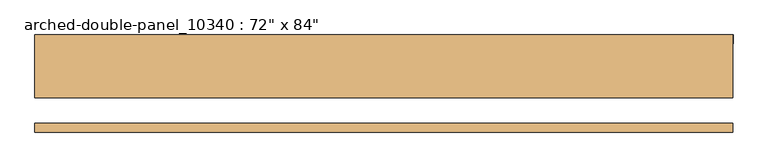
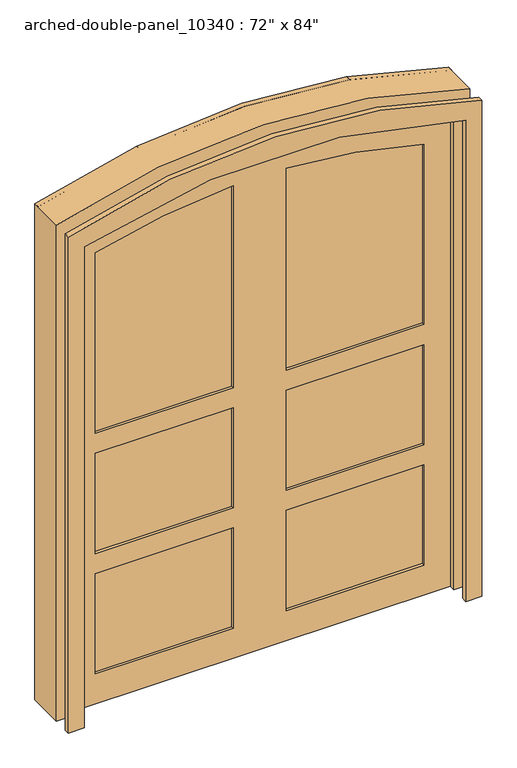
"""IFC4 building model written with IfcOpenShell, lengths in millimetres: door geometry."""

from ifc_helpers import new_model, si_unit, point, frame, frame_2d, origin, place, context, project, spatial, polyline, circle_curve, trimmed, segment, composite_curve, outline, extrude, source, transform, mapped, element, save


def door_2f4aef03(model_context):
    return source(origin(), model_context, "Body", "SweptSolid", [
        extrude(outline(composite_curve([segment(polyline([(0.0, -990.8443726), (0.0, -914.6443726), (2438.4, -914.6443726)]), True, "CONTINUOUS"), segment(trimmed(circle_curve(frame_2d((-425.8020119, -0.2443726)), 3006.6227773), [point((2438.4, -914.6443726))], [point((2438.4, 914.1556274))], True, "CARTESIAN"), True, "CONTINUOUS"), segment(polyline([(2438.4, 914.1556274), (0.0, 914.1556274), (0.0, 991.4590112), (2512.7633325, 991.4590112)]), True, "CONTINUOUS"), segment(trimmed(circle_curve(frame_2d((-421.3554236, -2.1296795)), 3097.784912), [point((2512.7633325, 991.4590112))], [point((2514.4093178, -990.8443726))], False, "CARTESIAN"), True, "CONTINUOUS"), segment(polyline([(2514.4093178, -990.8443726), (0.0, -990.8443726)]), True, "CONTINUOUS")], self_intersect=False)), frame((0.0, -101.6, 0.0), z_axis=(0.0, 1.0, 0.0), x_axis=(0.0, 0.0, 1.0)), (0.0, 0.0, 1.0), 25.4),
        extrude(outline(composite_curve([segment(polyline([(0.0, -990.6), (0.0, -914.4), (2438.4, -914.4)]), True, "CONTINUOUS"), segment(trimmed(circle_curve(frame_2d((-425.8020119, 0.0)), 3006.6227773), [point((2438.4, -914.4))], [point((2438.4, 914.4))], True, "CARTESIAN"), True, "CONTINUOUS"), segment(polyline([(2438.4, 914.4), (0.0, 914.4), (0.0, 991.7033838), (2512.7633325, 991.7033838)]), True, "CONTINUOUS"), segment(trimmed(circle_curve(frame_2d((-421.3554236, -1.8853069)), 3097.784912), [point((2512.7633325, 991.7033838))], [point((2514.4093178, -990.6))], False, "CARTESIAN"), True, "CONTINUOUS"), segment(polyline([(2514.4093178, -990.6), (0.0, -990.6)]), True, "CONTINUOUS")], self_intersect=False)), frame((0.0, -2.4, 0.0), z_axis=(0.0, 1.0, 0.0), x_axis=(0.0, 0.0, 1.0)), (0.0, 0.0, 1.0), 177.8),
        extrude(outline(composite_curve([segment(polyline([(0.0, -990.6), (0.0, -914.4), (2438.4, -914.4)]), True, "CONTINUOUS"), segment(trimmed(circle_curve(frame_2d((-425.8020119, 0.0)), 3006.6227773), [point((2438.4, -914.4))], [point((2438.4, 914.4))], True, "CARTESIAN"), True, "CONTINUOUS"), segment(polyline([(2438.4, 914.4), (0.0, 914.4), (0.0, 992.2666527), (2512.7633325, 992.2666527)]), True, "CONTINUOUS"), segment(trimmed(circle_curve(frame_2d((-421.3554236, -1.8853069)), 3097.9656218), [point((2512.7633325, 992.2666527))], [point((2514.6, -990.6))], False, "CARTESIAN"), True, "CONTINUOUS"), segment(polyline([(2514.6, -990.6), (0.0, -990.6)]), True, "CONTINUOUS")], self_intersect=False)), frame((0.0, 150.0, 0.0), z_axis=(0.0, 1.0, 0.0), x_axis=(0.0, 0.0, 1.0)), (0.0, 0.0, 1.0), 25.4),
        extrude(outline(composite_curve([segment(polyline([(1371.6, 787.4), (2286.0, 787.4)]), True, "CONTINUOUS"), segment(trimmed(circle_curve(frame_2d((-453.7000272, 0.0)), 2850.6060757), [point((2286.0, 787.4))], [point((2394.0755958, 127.0))], False, "CARTESIAN"), True, "CONTINUOUS"), segment(polyline([(2394.0755958, 127.0), (1371.6, 127.0), (1371.6, 787.4)]), True, "CONTINUOUS")], self_intersect=False)), frame((0.0, 38.1, 0.0), z_axis=(0.0, 1.0, 0.0), x_axis=(0.0, 0.0, 1.0)), (0.0, 0.0, 1.0), 99.2),
        extrude(outline(polyline([(127.0, 137.3), (787.4, 137.3), (787.4, 38.1), (127.0, 38.1), (127.0, 137.3)])), frame((0.0, 0.0, 762.0), z_axis=(0.0, 0.0, 1.0), x_axis=(1.0, 0.0, 0.0)), (0.0, 0.0, 1.0), 508.0),
        extrude(outline(polyline([(127.0, 137.3), (787.4, 137.3), (787.4, 38.1), (127.0, 38.1), (127.0, 137.3)])), frame((0.0, 0.0, 152.4), z_axis=(0.0, 0.0, 1.0), x_axis=(1.0, 0.0, 0.0)), (0.0, 0.0, 1.0), 508.0),
        extrude(outline(composite_curve([segment(polyline([(1371.6, -787.4), (1371.6, -127.0), (2394.0755958, -127.0)]), True, "CONTINUOUS"), segment(trimmed(circle_curve(frame_2d((-453.7000272, 0.0)), 2850.6060757), [point((2394.0755958, -127.0))], [point((2286.0, -787.4))], False, "CARTESIAN"), True, "CONTINUOUS"), segment(polyline([(2286.0, -787.4), (1371.6, -787.4)]), True, "CONTINUOUS")], self_intersect=False)), frame((0.0, 38.1, 0.0), z_axis=(0.0, 1.0, 0.0), x_axis=(0.0, 0.0, 1.0)), (0.0, 0.0, 1.0), 99.2),
        extrude(outline(polyline([(-787.4, 137.3), (-127.0, 137.3), (-127.0, 38.1), (-787.4, 38.1), (-787.4, 137.3)])), frame((0.0, 0.0, 762.0), z_axis=(0.0, 0.0, 1.0), x_axis=(1.0, 0.0, 0.0)), (0.0, 0.0, 1.0), 508.0),
        extrude(outline(polyline([(-787.4, 137.3), (-127.0, 137.3), (-127.0, 38.1), (-787.4, 38.1), (-787.4, 137.3)])), frame((0.0, 0.0, 152.4), z_axis=(0.0, 0.0, 1.0), x_axis=(1.0, 0.0, 0.0)), (0.0, 0.0, 1.0), 508.0),
        extrude(outline(composite_curve([segment(polyline([(0.0, 914.4), (2438.4, 914.4)]), True, "CONTINUOUS"), segment(trimmed(circle_curve(frame_2d((-425.8020119, 0.0)), 3006.6227773), [point((2438.4, 914.4))], [point((2438.4, -914.4))], False, "CARTESIAN"), True, "CONTINUOUS"), segment(polyline([(2438.4, -914.4), (0.0, -914.4), (0.0, 914.4)]), True, "CONTINUOUS")], self_intersect=False), holes=[composite_curve([segment(polyline([(1371.6, 787.4), (1371.6, 127.0), (2394.0755958, 127.0)]), True, "CONTINUOUS"), segment(trimmed(circle_curve(frame_2d((-453.7000272, 0.0)), 2850.6060757), [point((2394.0755958, 127.0))], [point((2286.0, 787.4))], True, "CARTESIAN"), True, "CONTINUOUS"), segment(polyline([(2286.0, 787.4), (1371.6, 787.4)]), True, "CONTINUOUS")], self_intersect=False), polyline([(762.0, 787.4), (762.0, 127.0), (1270.0, 127.0), (1270.0, 787.4), (762.0, 787.4)]), polyline([(660.4, 787.4), (152.4, 787.4), (152.4, 127.0), (660.4, 127.0), (660.4, 787.4)]), composite_curve([segment(polyline([(1371.6, -787.4), (2286.0, -787.4)]), True, "CONTINUOUS"), segment(trimmed(circle_curve(frame_2d((-453.7000272, 0.0)), 2850.6060757), [point((2286.0, -787.4))], [point((2394.0755958, -127.0))], True, "CARTESIAN"), True, "CONTINUOUS"), segment(polyline([(2394.0755958, -127.0), (1371.6, -127.0), (1371.6, -787.4)]), True, "CONTINUOUS")], self_intersect=False), polyline([(1270.0, -787.4), (1270.0, -127.0), (762.0, -127.0), (762.0, -787.4), (1270.0, -787.4)]), polyline([(152.4, -127.0), (152.4, -787.4), (660.4, -787.4), (660.4, -127.0), (152.4, -127.0)])]), frame((0.0, 25.4, 0.0), z_axis=(0.0, 1.0, 0.0), x_axis=(0.0, 0.0, 1.0)), (0.0, 0.0, 1.0), 124.6),
    ])


if __name__ == "__main__":
    model = new_model("IFC4")
    model_context = context("Model", 3, world=origin())
    ifc_project = project(units=[si_unit("LENGTHUNIT", "METRE", prefix="MILLI")], contexts=[model_context])
    site = spatial("IfcSite", under=ifc_project)
    building = spatial("IfcBuilding", under=site)
    placement = place(None, origin())
    door_shape = door_2f4aef03(model_context)
    element("IfcDoor", 1, ObjectType="arched-double-panel_10340 : 72\" x 84\"", at=placement, inside=building, context=model_context, shape_type="MappedRepresentation", body=[
        mapped(door_shape, transform((0.0, 0.0, 0.0), x_axis=(1.0, 0.0, 0.0), y_axis=(0.0, 1.0, 0.0), z_axis=(0.0, 0.0, 1.0))),
    ])
    save(model, "model.ifc")
